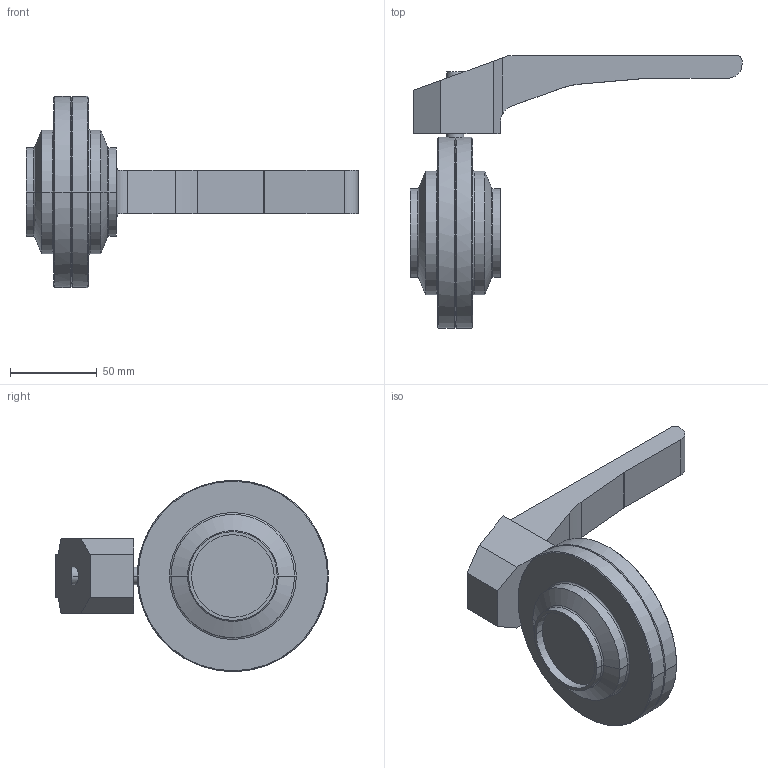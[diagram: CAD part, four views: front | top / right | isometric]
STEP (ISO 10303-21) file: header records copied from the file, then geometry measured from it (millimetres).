
FILE_DESCRIPTION(('OneSpaceDesigner STEP Export'),'2;1');
FILE_NAME('SV1-2zoll-H-12S.stp','2007-04-20T11:50:13',(''),(''),'OneSpace Designer STEP processor for AP214 (Solid Model)','OneSpace Modeling 15.00 06-Feb-2007 (C) CoCreate Software GmbH','');
FILE_SCHEMA(('AUTOMOTIVE_DESIGN { 1 0 10303 214 1 1 1 1 }'));
Length unit declared in the file: millimetre
Products named in the file (3): Handhebel-SV-40-100; Gehäusehälfte-SV1-2zoll-1S; SV1-2zoll-H-12S-vereint
Assembly tree (2 placements, depth 2):
  SV1-2zoll-H-12S-vereint
    Gehäusehälfte-SV1-2zoll-1S
    Handhebel-SV-40-100
Bounding box: 191 x 157 x 110 mm (x, y, z)
Volume: 399212.3 mm3; surface area: 53262.4 mm2
Topology: 2 solids, 2 shells, 70 faces, 157 edges, 96 vertices
Faces by surface type: plane 25, cylinder 25, cone 12, torus 8
Entity records: 2229 total; most frequent: CARTESIAN_POINT 727, ORIENTED_EDGE 314, DIRECTION 275, EDGE_CURVE 157, AXIS2_PLACEMENT_3D 99, VERTEX_POINT 96, VECTOR 77, LINE 77
